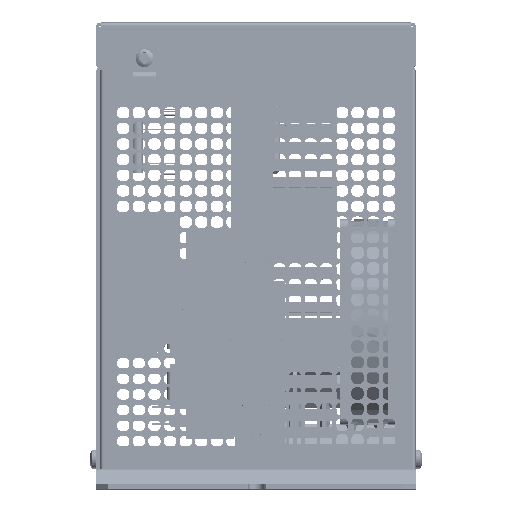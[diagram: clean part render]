
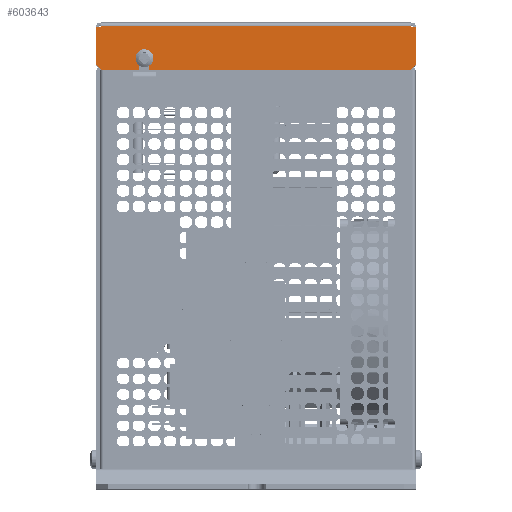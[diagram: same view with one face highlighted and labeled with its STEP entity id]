
A CAD part, top view. The second image highlights one B-rep face of the part: STEP entity #603643.
In plain terms, the highlighted planar face has unit normal (0, 0, 1).
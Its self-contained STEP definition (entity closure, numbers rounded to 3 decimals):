
#602165=DIRECTION('',(0.,-1.,0.));
#602166=VECTOR('',#602165,0.5);
#602167=CARTESIAN_POINT('',(69.5,18.5,136.5));
#602168=LINE('',#602167,#602166);
#602250=DIRECTION('',(1.,0.,0.));
#602251=VECTOR('',#602250,116.75);
#602252=CARTESIAN_POINT('',(-47.75,-1.5,136.5));
#602253=LINE('',#602252,#602251);
#602258=DIRECTION('',(1.,0.,0.));
#602259=VECTOR('',#602258,16.75);
#602260=CARTESIAN_POINT('',(-69.,-1.5,136.5));
#602261=LINE('',#602260,#602259);
#602262=DIRECTION('',(0.,1.,0.));
#602263=VECTOR('',#602262,6.5);
#602264=CARTESIAN_POINT('',(-47.75,-1.5,136.5));
#602265=LINE('',#602264,#602263);
#602266=CARTESIAN_POINT('',(-50.,5.,136.5));
#602267=DIRECTION('',(0.,0.,1.));
#602268=DIRECTION('',(1.,0.,0.));
#602269=AXIS2_PLACEMENT_3D('',#602266,#602267,#602268);
#602271=DIRECTION('',(0.,1.,0.));
#602272=VECTOR('',#602271,6.5);
#602273=CARTESIAN_POINT('',(-52.25,-1.5,136.5));
#602274=LINE('',#602273,#602272);
#602275=DIRECTION('',(1.,0.,0.));
#602276=VECTOR('',#602275,2.);
#602277=CARTESIAN_POINT('',(-71.5,18.,136.5));
#602278=LINE('',#602277,#602276);
#602279=DIRECTION('',(1.,0.,0.));
#602280=VECTOR('',#602279,139.);
#602281=CARTESIAN_POINT('',(-69.5,18.5,136.5));
#602282=LINE('',#602281,#602280);
#602283=DIRECTION('',(1.,0.,0.));
#602284=VECTOR('',#602283,2.);
#602285=CARTESIAN_POINT('',(69.5,18.,136.5));
#602286=LINE('',#602285,#602284);
#602291=DIRECTION('',(0.707,-0.707,0.));
#602292=VECTOR('',#602291,3.536);
#602293=CARTESIAN_POINT('',(-71.5,1.,136.5));
#602294=LINE('',#602293,#602292);
#602311=DIRECTION('',(0.,-1.,0.));
#602312=VECTOR('',#602311,17.);
#602313=CARTESIAN_POINT('',(-71.5,18.,136.5));
#602314=LINE('',#602313,#602312);
#602417=DIRECTION('',(0.,-1.,0.));
#602418=VECTOR('',#602417,17.);
#602419=CARTESIAN_POINT('',(71.5,18.,136.5));
#602420=LINE('',#602419,#602418);
#602449=DIRECTION('',(-0.707,-0.707,
0.));
#602450=VECTOR('',#602449,3.536);
#602451=CARTESIAN_POINT('',(71.5,1.,136.5));
#602452=LINE('',#602451,#602450);
#602479=DIRECTION('',(0.,-1.,0.));
#602480=VECTOR('',#602479,0.5);
#602481=CARTESIAN_POINT('',(-69.5,18.5,136.5));
#602482=LINE('',#602481,#602480);
#602837=CARTESIAN_POINT('',(-47.75,5.,136.5));
#602839=VERTEX_POINT('',#602837);
#602841=CARTESIAN_POINT('',(-52.25,5.,136.5));
#602843=VERTEX_POINT('',#602841);
#602941=CARTESIAN_POINT('',(-69.5,18.5,136.5));
#602942=CARTESIAN_POINT('',(69.5,18.5,136.5));
#602943=VERTEX_POINT('',#602941);
#602944=VERTEX_POINT('',#602942);
#602953=CARTESIAN_POINT('',(-47.75,-1.5,136.5));
#602954=VERTEX_POINT('',#602953);
#602955=CARTESIAN_POINT('',(-52.25,-1.5,136.5));
#602956=VERTEX_POINT('',#602955);
#602990=CARTESIAN_POINT('',(-71.5,18.,136.5));
#602992=VERTEX_POINT('',#602990);
#602998=CARTESIAN_POINT('',(71.5,18.,136.5));
#603000=VERTEX_POINT('',#602998);
#603005=CARTESIAN_POINT('',(69.5,18.,136.5));
#603007=VERTEX_POINT('',#603005);
#603015=CARTESIAN_POINT('',(-69.5,18.,136.5));
#603016=VERTEX_POINT('',#603015);
#603037=CARTESIAN_POINT('',(-71.5,1.,136.5));
#603039=VERTEX_POINT('',#603037);
#603041=CARTESIAN_POINT('',(-69.,-1.5,136.5));
#603043=VERTEX_POINT('',#603041);
#603045=CARTESIAN_POINT('',(71.5,1.,136.5));
#603047=VERTEX_POINT('',#603045);
#603049=CARTESIAN_POINT('',(69.,-1.5,136.5));
#603051=VERTEX_POINT('',#603049);
#603616=CARTESIAN_POINT('',(-69.5,18.5,136.5));
#603617=DIRECTION('',(0.,0.,1.));
#603618=DIRECTION('',(0.,-1.,0.));
#603619=AXIS2_PLACEMENT_3D('',#603616,#603617,#603618);
#603620=PLANE('',#603619);
#603621=ORIENTED_EDGE('',*,*,#603552,.T.);
#603622=ORIENTED_EDGE('',*,*,#603569,.T.);
#603623=ORIENTED_EDGE('',*,*,#603583,.F.);
#603624=ORIENTED_EDGE('',*,*,#603611,.F.);
#603626=ORIENTED_EDGE('',*,*,#603625,.F.);
#603628=ORIENTED_EDGE('',*,*,#603627,.F.);
#603629=ORIENTED_EDGE('',*,*,#603505,.T.);
#603631=ORIENTED_EDGE('',*,*,#603630,.F.);
#603633=ORIENTED_EDGE('',*,*,#603632,.T.);
#603634=ORIENTED_EDGE('',*,*,#603442,.T.);
#603635=ORIENTED_EDGE('',*,*,#603491,.T.);
#603637=ORIENTED_EDGE('',*,*,#603636,.T.);
#603639=ORIENTED_EDGE('',*,*,#603638,.T.);
#603640=ORIENTED_EDGE('',*,*,#603594,.F.);
#603641=EDGE_LOOP('',(#603621,#603622,#603623,#603624,#603626,#603628,#603629,
#603631,#603633,#603634,#603635,#603637,#603639,#603640));
#603642=FACE_OUTER_BOUND('',#603641,.F.);
#602270=CIRCLE('',#602269,2.25);
#603442=EDGE_CURVE('',#602944,#603007,#602168,.T.);
#603491=EDGE_CURVE('',#603007,#603000,#602286,.T.);
#603505=EDGE_CURVE('',#602992,#603016,#602278,.T.);
#603552=EDGE_CURVE('',#602954,#602839,#602265,.T.);
#603569=EDGE_CURVE('',#602839,#602843,#602270,.T.);
#603583=EDGE_CURVE('',#602956,#602843,#602274,.T.);
#603594=EDGE_CURVE('',#602954,#603051,#602253,.T.);
#603611=EDGE_CURVE('',#603043,#602956,#602261,.T.);
#603625=EDGE_CURVE('',#603039,#603043,#602294,.T.);
#603627=EDGE_CURVE('',#602992,#603039,#602314,.T.);
#603630=EDGE_CURVE('',#602943,#603016,#602482,.T.);
#603632=EDGE_CURVE('',#602943,#602944,#602282,.T.);
#603636=EDGE_CURVE('',#603000,#603047,#602420,.T.);
#603638=EDGE_CURVE('',#603047,#603051,#602452,.T.);
#603643=ADVANCED_FACE('',(#603642),#603620,.T.);
